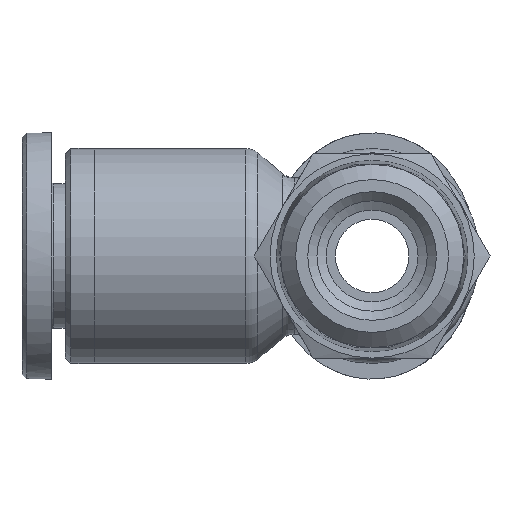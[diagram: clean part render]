
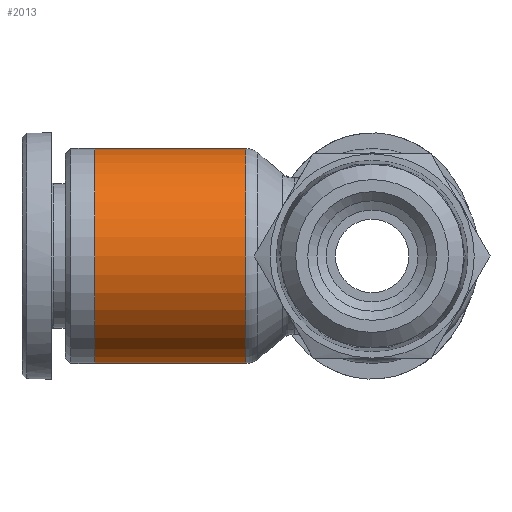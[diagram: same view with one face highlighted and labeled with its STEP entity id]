
A CAD part, front view. The second image highlights one B-rep face of the part: STEP entity #2013.
In plain terms, the highlighted cylindrical face has radius 5.85 mm (diameter 11.7 mm), a full revolution.
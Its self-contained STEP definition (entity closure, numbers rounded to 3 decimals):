
#1960=CARTESIAN_POINT('',(8.235,5.85,0.0));
#1961=VERTEX_POINT('',#1960);
#1962=CARTESIAN_POINT('',(8.235,0.,0.0));
#1963=DIRECTION('',(1.0,0.0,0.0));
#1964=DIRECTION('',(0.0,-1.0,0.0));
#1965=AXIS2_PLACEMENT_3D('',#1962,#1963,#1964);
#1966=CIRCLE('',#1965,5.85);
#1967=EDGE_CURVE('',#1961,#1961,#1966,.T.);
#1994=CARTESIAN_POINT('',(4.3,0.,0.0));
#1995=DIRECTION('',(1.0,0.,0.0));
#1996=DIRECTION('',(0.0,1.0,0.0));
#1997=AXIS2_PLACEMENT_3D('',#1994,#1995,#1996);
#1998=CYLINDRICAL_SURFACE('',#1997,5.85);
#1999=CARTESIAN_POINT('',(0.0,5.85,0.0));
#2000=VERTEX_POINT('',#1999);
#2001=CARTESIAN_POINT('',(0.,0.,0.0));
#2002=DIRECTION('',(1.0,0.0,0.0));
#2003=DIRECTION('',(0.0,1.0,0.0));
#2004=AXIS2_PLACEMENT_3D('',#2001,#2002,#2003);
#2005=CIRCLE('',#2004,5.85);
#2006=EDGE_CURVE('',#2000,#2000,#2005,.T.);
#2007=ORIENTED_EDGE('',*,*,#2006,.T.);
#2008=EDGE_LOOP('',(#2007));
#2009=FACE_OUTER_BOUND('',#2008,.T.);
#2010=ORIENTED_EDGE('',*,*,#1967,.F.);
#2011=EDGE_LOOP('',(#2010));
#2012=FACE_BOUND('',#2011,.T.);
#2013=ADVANCED_FACE('',(#2009,#2012),#1998,.T.);
